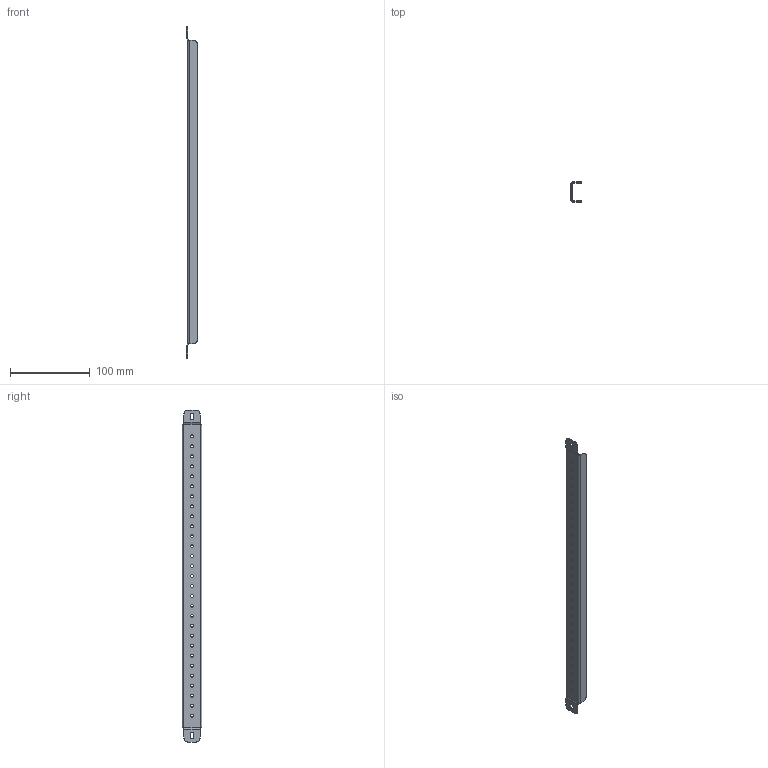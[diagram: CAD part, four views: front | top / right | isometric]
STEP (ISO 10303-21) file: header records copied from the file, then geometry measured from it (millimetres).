
FILE_DESCRIPTION (( 'STEP AP214' ), '1' );
FILE_NAME ('RGC 50.STEP', '2023-12-25T07:24:11', ( '' ), ( '' ), 'SwSTEP 2.0', 'SolidWorks 2019', '' );
FILE_SCHEMA (( 'AUTOMOTIVE_DESIGN' ));
Length unit declared in the file: millimetre
Products named in the file (1): RGC 50
Bounding box: 13.2 x 25 x 416 mm (x, y, z)
Volume: 20962.4 mm3; surface area: 36459.4 mm2
Topology: 1 solids, 1 shells, 130 faces, 340 edges, 212 vertices
Faces by surface type: cylinder 82, plane 48
Entity records: 4174 total; most frequent: DIRECTION 766, CARTESIAN_POINT 683, ORIENTED_EDGE 680, EDGE_CURVE 340, AXIS2_PLACEMENT_3D 295, VERTEX_POINT 212, EDGE_LOOP 192, LINE 176
